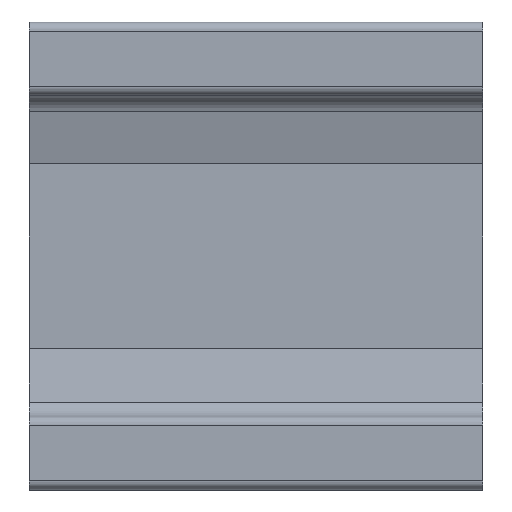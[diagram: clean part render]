
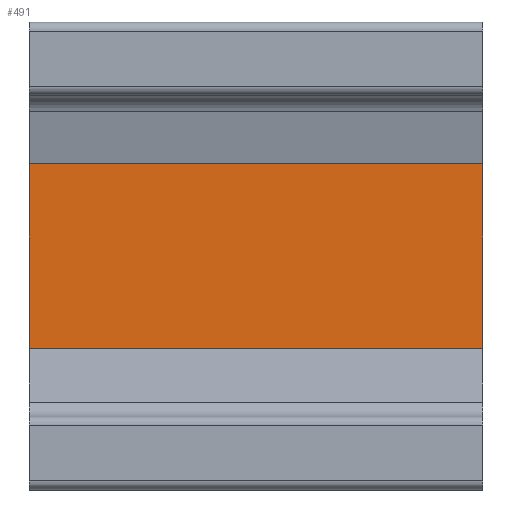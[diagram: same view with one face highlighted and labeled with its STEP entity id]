
A CAD part, top view. The second image highlights one B-rep face of the part: STEP entity #491.
In plain terms, the highlighted planar face has unit normal (0, 0, 1).
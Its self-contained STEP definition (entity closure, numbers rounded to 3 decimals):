
#435=CARTESIAN_POINT('',(100.0,-20.4,7.7));
#436=VERTEX_POINT('',#435);
#443=CARTESIAN_POINT('',(0.0,-20.4,7.7));
#444=VERTEX_POINT('',#443);
#445=CARTESIAN_POINT('',(0.0,-20.4,7.7));
#446=DIRECTION('',(1.0,0.0,0.0));
#447=VECTOR('',#446,100.0);
#448=LINE('',#445,#447);
#449=EDGE_CURVE('',#444,#436,#448,.T.);
#461=CARTESIAN_POINT('',(0.0,-20.4,7.7));
#462=DIRECTION('',(0.0,0.0,1.0));
#463=DIRECTION('',(1.0,0.0,0.0));
#464=AXIS2_PLACEMENT_3D('',#461,#462,#463);
#465=PLANE('',#464);
#466=CARTESIAN_POINT('',(100.0,20.4,7.7));
#467=VERTEX_POINT('',#466);
#468=CARTESIAN_POINT('',(100.0,-20.4,7.7));
#469=DIRECTION('',(0.0,1.0,0.0));
#470=VECTOR('',#469,40.8);
#471=LINE('',#468,#470);
#472=EDGE_CURVE('',#436,#467,#471,.T.);
#473=ORIENTED_EDGE('',*,*,#472,.T.);
#474=CARTESIAN_POINT('',(0.0,20.4,7.7));
#475=VERTEX_POINT('',#474);
#476=CARTESIAN_POINT('',(0.0,20.4,7.7));
#477=DIRECTION('',(1.0,0.0,0.0));
#478=VECTOR('',#477,100.0);
#479=LINE('',#476,#478);
#480=EDGE_CURVE('',#475,#467,#479,.T.);
#481=ORIENTED_EDGE('',*,*,#480,.F.);
#482=CARTESIAN_POINT('',(0.0,20.4,7.7));
#483=DIRECTION('',(0.0,-1.0,0.0));
#484=VECTOR('',#483,40.8);
#485=LINE('',#482,#484);
#486=EDGE_CURVE('',#475,#444,#485,.T.);
#487=ORIENTED_EDGE('',*,*,#486,.T.);
#488=ORIENTED_EDGE('',*,*,#449,.T.);
#489=EDGE_LOOP('',(#473,#481,#487,#488));
#490=FACE_OUTER_BOUND('',#489,.T.);
#491=ADVANCED_FACE('',(#490),#465,.T.);
